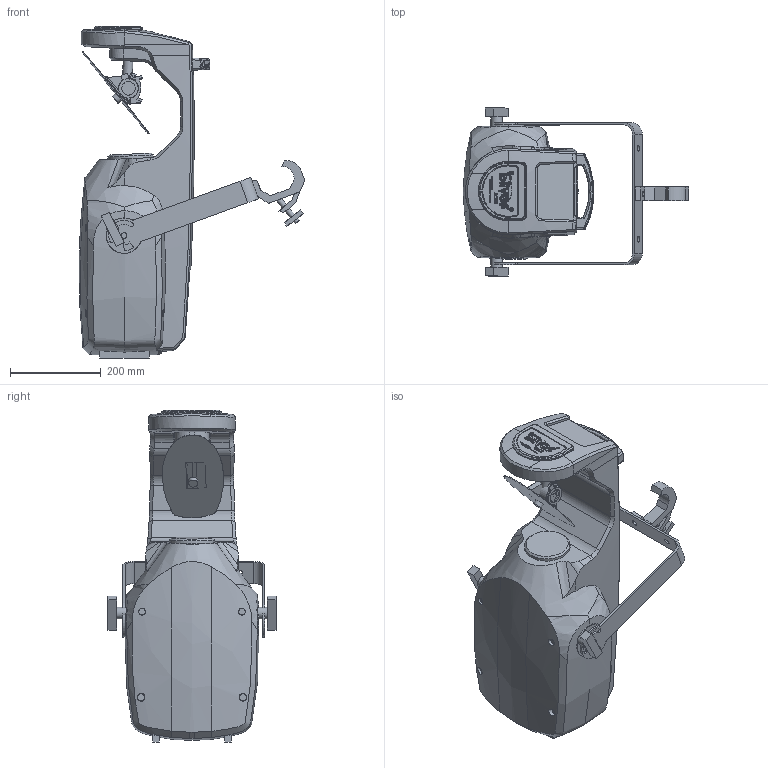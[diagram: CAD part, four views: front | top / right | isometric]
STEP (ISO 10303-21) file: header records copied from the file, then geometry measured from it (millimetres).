
FILE_DESCRIPTION(/* description */ ('Unknown'),/* implementation_level */ '2;1');
FILE_NAME(/* name */ '3D_SilverScan',/* time_stamp */ '2019-07-22T14:31:12+02:00',/* author */ ('Unknown'),/* organization */ ('Unknown'),/* preprocessor_version */ 'ST-DEVELOPER v16.7',/* originating_system */ 'DEX',/* authorisation */ $);
FILE_SCHEMA (('AUTOMOTIVE_DESIGN {1 0 10303 214 3 1 1}'));
Products named in the file (47): 3D_SilverScan; Head SilveScan; 11016931 Z嫛鮀 SilverScan; 19020081 Madlo ROBE; Clamp Doughty Slimline QT; 99016039 Sestava zrcadla SilverScan; 99016071 Krok. motor s èidlem; 16010033 Krok motor 17HC2001-01N-A; 13032128 RB3689-V1.1; Board_outline; IC1; C3; C2; C1; C4; C5; IC2; J1; LED1; R1; LED2; R10; R2; R11; R3; R5; R4; R6; R7; R8; S1; R9; 17031156 Páska samolepící oboustranná D42,5 d 26 tl. 4; 17031155 Magnet D5 tl. 2; 18050011 V骹薠ovka pr 3; 18010016 Šr.Køíž.pulkul. M3x6; 99011272 Unašeè zrcadla s lepící páskou1; 11016930 Držák zrcadla; 17030056 Samolepící páska oboustranná Š20 L45; 11017011 Jištìní èidla SilverScan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
Assembly tree (49 placements, depth 5):
  3D_SilverScan
    Head SilveScan
    11016931 Z嫛鮀 SilverScan
    19020081 Madlo ROBE
    Clamp Doughty Slimline QT
    99016039 Sestava zrcadla SilverScan
      99016071 Krok. motor s èidlem
        16010033 Krok motor 17HC2001-01N-A
        13032128 RB3689-V1.1
          Board_outline
          IC1
          C3
          C2
          C1
          C4
          C5
          IC2
          J1
          LED1
          R1
          LED2
          R10
          R2
          R11
          R3
          R5
          R4
          R6
          R7
          R8
          S1
          R9
        17031156 Páska samolepící oboustranná D42,5 d 26 tl. 4
        17031155 Magnet D5 tl. 2
      18050011 V骹薠ovka pr 3  x2
      18010016 Šr.Køíž.pulkul. M3x6  x2
      99011272 Unašeè zrcadla s lepící páskou1
        11016930 Držák zrcadla
        17030056 Samolepící páska oboustranná Š20 L45  x2
      11017011 Jištìní èidla SilverScan
      1101TM0040 Šablona pro výseky
      17041912 Jištìní èidla_Protikus s M2 SilverScan
        11017012 Jištìní èidla_Protikus SilverScan
        18040028 Matice zálisná M2
      18010001 Šr.Køíž.Pulkul.M2x4
      14060763 Zrcadlo Silverscan
    19020352 Kryt s logem VS
Bounding box: 496.65 x 369.84 x 730.77 mm (x, y, z)
Volume: 27321736.6 mm3; surface area: 1004883 mm2
Topology: 50 solids, 50 shells, 2455 faces, 6596 edges, 4314 vertices
Faces by surface type: plane 1743, bspline 319, cylinder 280, cone 67, torus 31, sphere 15
Full cylindrical faces by diameter (mm): 1.6 x1, 2 x1, 2.3 x1, 2.459 x2, 3 x2, 3.2 x8, 4 x1, 4.2 x1, 4.25 x1, 5 x2, 5.6 x2, 5.677 x2, 6.3 x1, 7 x1, 7.227 x1, 12 x4, 12.75 x2, 13 x3, 20 x1, 21.385 x1, 22 x2, 24 x3, 25.257 x2, 26 x3, 30 x1, 41.8 x1, 42.5 x1, 44 x1, 100.41 x1
Entity records: 87696 total; most frequent: CARTESIAN_POINT 29281, ORIENTED_EDGE 12532, DIRECTION 10277, EDGE_CURVE 6266, LINE 4667, VECTOR 4667, VERTEX_POINT 4152, AXIS2_PLACEMENT_3D 2805
